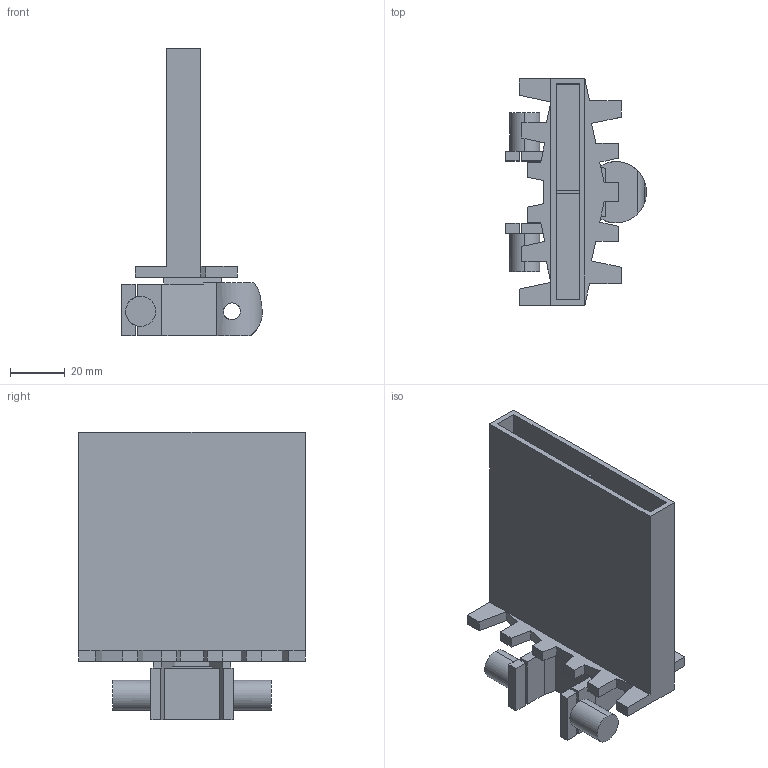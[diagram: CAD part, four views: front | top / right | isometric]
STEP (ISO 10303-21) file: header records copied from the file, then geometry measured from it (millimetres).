
FILE_DESCRIPTION (( 'STEP AP214' ), '1' );
FILE_NAME ('FMCT-5D-H80-P.STEP', '2011-09-28T08:30:43', ( '.' ), ( '' ), 'SwSTEP 2.0', 'SolidWorks 2010', '' );
FILE_SCHEMA (( 'AUTOMOTIVE_DESIGN' ));
Length unit declared in the file: millimetre
Products named in the file (1): FMCT-5D-H80-P
Bounding box: 51.65 x 83 x 105.5 mm (x, y, z)
Volume: 56220.3 mm3; surface area: 42763 mm2
Topology: 1 solids, 1 shells, 119 faces, 329 edges, 213 vertices
Faces by surface type: plane 109, cylinder 10
Entity records: 3889 total; most frequent: CARTESIAN_POINT 826, ORIENTED_EDGE 658, DIRECTION 579, EDGE_CURVE 329, VECTOR 299, LINE 299, VERTEX_POINT 213, AXIS2_PLACEMENT_3D 140
